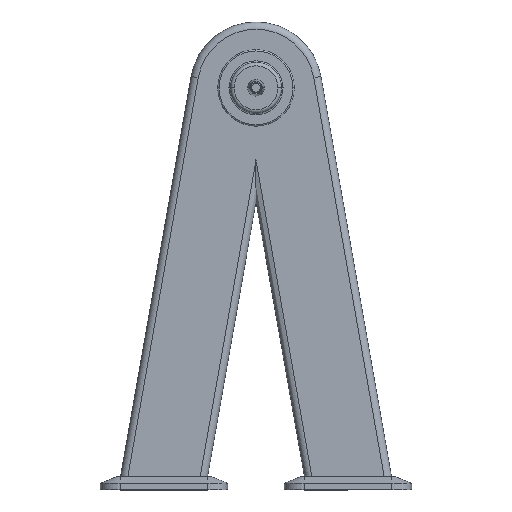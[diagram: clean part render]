
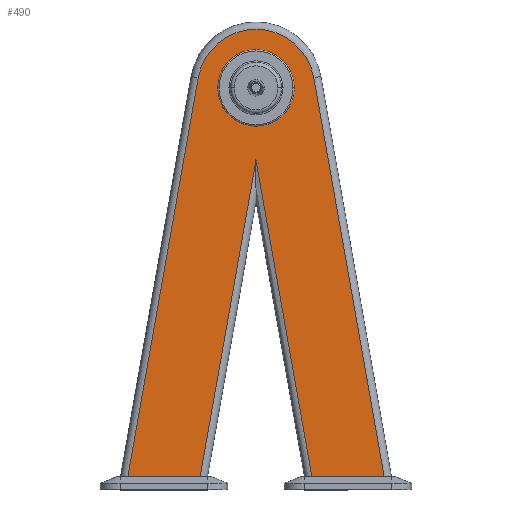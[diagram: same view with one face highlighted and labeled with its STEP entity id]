
A CAD part, top view. The second image highlights one B-rep face of the part: STEP entity #490.
In plain terms, the highlighted planar face has unit normal (0, 0, 1).
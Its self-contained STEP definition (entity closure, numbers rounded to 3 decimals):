
#64 = VECTOR ( 'NONE', #2748, 1000. ) ;
#159 = CARTESIAN_POINT ( 'NONE',  ( 90.852, -14.664, 63. ) ) ;
#176 = CARTESIAN_POINT ( 'NONE',  ( -87.648, 625.455, 63. ) ) ;
#194 = CARTESIAN_POINT ( 'NONE',  ( -199.327, -7.91, 63. ) ) ;
#229 = VECTOR ( 'NONE', #1749, 1000. ) ;
#246 = ORIENTED_EDGE ( 'NONE', *, *, #1732, .T. ) ;
#292 = CARTESIAN_POINT ( 'NONE',  ( 0., 500.583, 63. ) ) ;
#302 = CARTESIAN_POINT ( 'NONE',  ( 84.74, 20., 63. ) ) ;
#317 = LINE ( 'NONE', #2347, #471 ) ;
#421 = VERTEX_POINT ( 'NONE', #423 ) ;
#423 = CARTESIAN_POINT ( 'NONE',  ( 194.406, 20., 63. ) ) ;
#471 = VECTOR ( 'NONE', #870, 1000. ) ;
#490 = ADVANCED_FACE ( 'NONE', ( #1346, #834 ), #2711, .T. ) ;
#517 = CARTESIAN_POINT ( 'NONE',  ( 58., 610., 63. ) ) ;
#595 = VECTOR ( 'NONE', #2575, 1000. ) ;
#619 = DIRECTION ( 'NONE',  ( 0., 0., 1. ) ) ;
#666 = VECTOR ( 'NONE', #1133, 1000. ) ;
#685 = CARTESIAN_POINT ( 'NONE',  ( 0., 610., 63. ) ) ;
#692 = EDGE_CURVE ( 'NONE', #2597, #831, #2171, .T. ) ;
#737 = CIRCLE ( 'NONE', #794, 89. ) ;
#794 = AXIS2_PLACEMENT_3D ( 'NONE', #685, #2179, #909 ) ;
#831 = VERTEX_POINT ( 'NONE', #2639 ) ;
#834 = FACE_OUTER_BOUND ( 'NONE', #2737, .T. ) ;
#870 = DIRECTION ( 'NONE',  ( 0.174, 0.985, 0. ) ) ;
#882 = ORIENTED_EDGE ( 'NONE', *, *, #1698, .F. ) ;
#909 = DIRECTION ( 'NONE',  ( 1., 0., 0. ) ) ;
#924 = VERTEX_POINT ( 'NONE', #2254 ) ;
#1014 = VECTOR ( 'NONE', #2717, 1000. ) ;
#1080 = DIRECTION ( 'NONE',  ( 0., 0., 1. ) ) ;
#1090 = DIRECTION ( 'NONE',  ( 0., 0., 1. ) ) ;
#1133 = DIRECTION ( 'NONE',  ( -1., 0., 0. ) ) ;
#1255 = LINE ( 'NONE', #2741, #666 ) ;
#1336 = CARTESIAN_POINT ( 'NONE',  ( -84.74, 20., 63. ) ) ;
#1346 = FACE_BOUND ( 'NONE', #1942, .T. ) ;
#1354 = ORIENTED_EDGE ( 'NONE', *, *, #1710, .T. ) ;
#1439 = ORIENTED_EDGE ( 'NONE', *, *, #692, .F. ) ;
#1524 = CARTESIAN_POINT ( 'NONE',  ( 0., 20., 63. ) ) ;
#1582 = CIRCLE ( 'NONE', #2525, 58. ) ;
#1584 = EDGE_CURVE ( 'NONE', #831, #2597, #1582, .T. ) ;
#1589 = AXIS2_PLACEMENT_3D ( 'NONE', #2121, #619, #2082 ) ;
#1603 = EDGE_CURVE ( 'NONE', #1675, #924, #2590, .T. ) ;
#1624 = EDGE_CURVE ( 'NONE', #1675, #2648, #317, .T. ) ;
#1631 = ORIENTED_EDGE ( 'NONE', *, *, #1777, .T. ) ;
#1643 = EDGE_CURVE ( 'NONE', #2648, #2684, #2478, .T. ) ;
#1675 = VERTEX_POINT ( 'NONE', #1336 ) ;
#1698 = EDGE_CURVE ( 'NONE', #421, #2684, #1255, .T. ) ;
#1710 = EDGE_CURVE ( 'NONE', #421, #2587, #2356, .T. ) ;
#1720 = VERTEX_POINT ( 'NONE', #176 ) ;
#1732 = EDGE_CURVE ( 'NONE', #2587, #1720, #737, .T. ) ;
#1749 = DIRECTION ( 'NONE',  ( 0.174, -0.985, 0. ) ) ;
#1777 = EDGE_CURVE ( 'NONE', #1720, #924, #2733, .T. ) ;
#1790 = ORIENTED_EDGE ( 'NONE', *, *, #1603, .F. ) ;
#1928 = AXIS2_PLACEMENT_3D ( 'NONE', #2526, #1080, #2518 ) ;
#1942 = EDGE_LOOP ( 'NONE', ( #2395, #1439 ) ) ;
#1969 = CARTESIAN_POINT ( 'NONE',  ( 87.648, 625.455, 63. ) ) ;
#2029 = CARTESIAN_POINT ( 'NONE',  ( 87.648, 625.455, 63. ) ) ;
#2082 = DIRECTION ( 'NONE',  ( 1., 0., 0. ) ) ;
#2121 = CARTESIAN_POINT ( 'NONE',  ( 0., 610., 63. ) ) ;
#2171 = CIRCLE ( 'NONE', #1589, 58. ) ;
#2179 = DIRECTION ( 'NONE',  ( 0., 0., 1. ) ) ;
#2254 = CARTESIAN_POINT ( 'NONE',  ( -194.406, 20., 63. ) ) ;
#2286 = ORIENTED_EDGE ( 'NONE', *, *, #1643, .T. ) ;
#2337 = CARTESIAN_POINT ( 'NONE',  ( 0., 610., 63. ) ) ;
#2347 = CARTESIAN_POINT ( 'NONE',  ( -10.833, 439.147, 63. ) ) ;
#2356 = LINE ( 'NONE', #1969, #64 ) ;
#2395 = ORIENTED_EDGE ( 'NONE', *, *, #1584, .F. ) ;
#2478 = LINE ( 'NONE', #159, #229 ) ;
#2518 = DIRECTION ( 'NONE',  ( 1., 0., 0. ) ) ;
#2525 = AXIS2_PLACEMENT_3D ( 'NONE', #2337, #1090, #2529 ) ;
#2526 = CARTESIAN_POINT ( 'NONE',  ( 0., 610., 63. ) ) ;
#2529 = DIRECTION ( 'NONE',  ( 1., 0., 0. ) ) ;
#2575 = DIRECTION ( 'NONE',  ( -0.174, -0.985, 0. ) ) ;
#2587 = VERTEX_POINT ( 'NONE', #2029 ) ;
#2590 = LINE ( 'NONE', #1524, #1014 ) ;
#2591 = ORIENTED_EDGE ( 'NONE', *, *, #1624, .T. ) ;
#2597 = VERTEX_POINT ( 'NONE', #517 ) ;
#2639 = CARTESIAN_POINT ( 'NONE',  ( -58., 610., 63. ) ) ;
#2648 = VERTEX_POINT ( 'NONE', #292 ) ;
#2684 = VERTEX_POINT ( 'NONE', #302 ) ;
#2711 = PLANE ( 'NONE',  #1928 ) ;
#2717 = DIRECTION ( 'NONE',  ( -1., 0., 0. ) ) ;
#2733 = LINE ( 'NONE', #194, #595 ) ;
#2737 = EDGE_LOOP ( 'NONE', ( #1790, #2591, #2286, #882, #1354, #246, #1631 ) ) ;
#2741 = CARTESIAN_POINT ( 'NONE',  ( 0., 20., 63. ) ) ;
#2748 = DIRECTION ( 'NONE',  ( -0.174, 0.985, 0. ) ) ;
